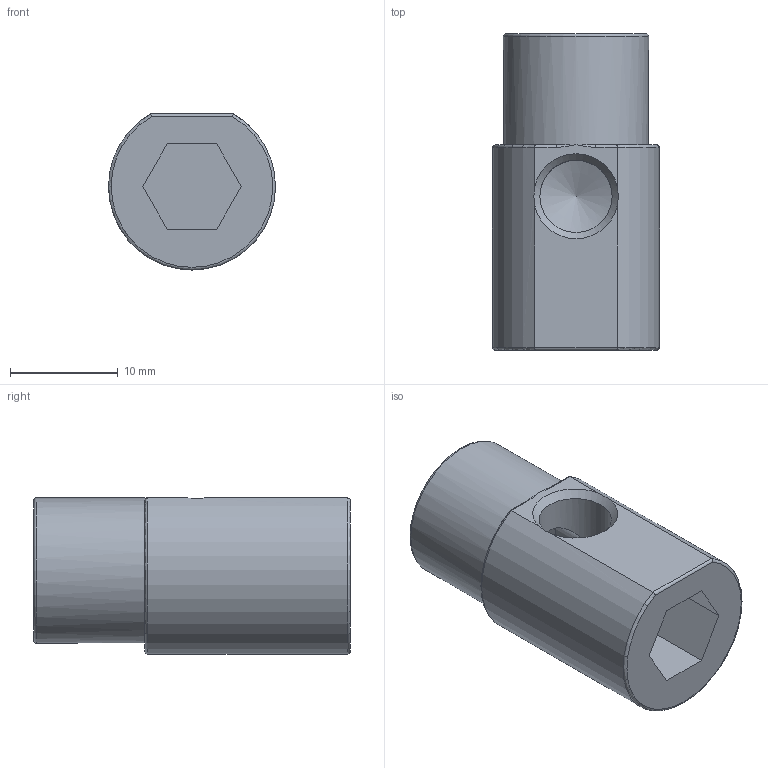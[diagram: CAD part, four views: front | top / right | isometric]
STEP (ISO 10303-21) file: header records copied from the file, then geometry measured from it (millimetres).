
FILE_DESCRIPTION(/* description */ (''),/* implementation_level */ '2;1');
FILE_NAME(/* name */ 'C:/Users/drich/Desktop/HKL1618 v1.step',/* time_stamp */ '2019-12-27T17:58:33-06:00',/* author */ (''),/* organization */ (''),/* preprocessor_version */ 'ST-DEVELOPER v18',/* originating_system */ 'Autodesk Translation Framework v8.12.0.6',/* authorisation */ '');
FILE_SCHEMA (('AUTOMOTIVE_DESIGN { 1 0 10303 214 3 1 1 }'));
Length unit declared in the file: inch
Products named in the file (1): HKL1618
Bounding box: 15.49 x 29.36 x 14.48 mm (x, y, z)
Volume: 3500.1 mm3; surface area: 2367 mm2
Topology: 1 solids, 1 shells, 29 faces, 73 edges, 44 vertices
Faces by surface type: plane 12, cylinder 8, cone 4, torus 3, bspline 2
Full cylindrical faces by diameter (mm): 6.35 x1, 6.697 x1, 8.707 x1, 13.462 x1
Entity records: 1036 total; most frequent: CARTESIAN_POINT 319, ORIENTED_EDGE 140, DIRECTION 138, EDGE_CURVE 70, AXIS2_PLACEMENT_3D 51, VERTEX_POINT 44, LINE 36, VECTOR 36
